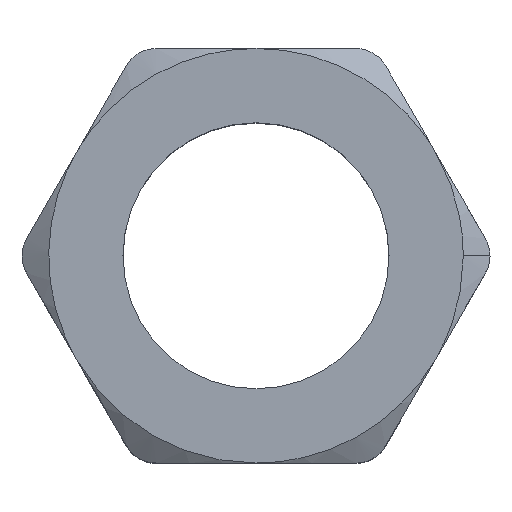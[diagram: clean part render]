
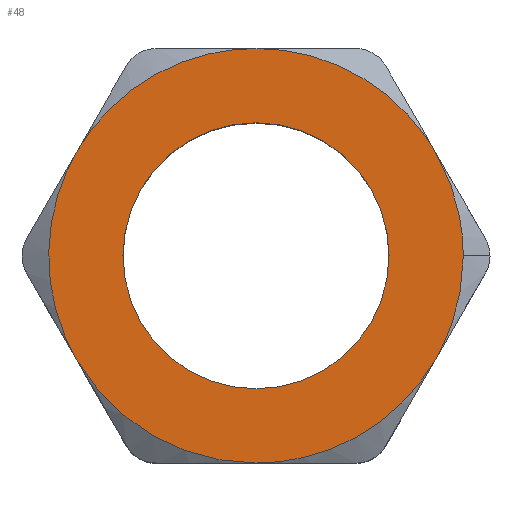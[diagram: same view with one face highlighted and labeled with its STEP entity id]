
A CAD part, top view. The second image highlights one B-rep face of the part: STEP entity #48.
In plain terms, the highlighted planar face has unit normal (0, 0, 1).
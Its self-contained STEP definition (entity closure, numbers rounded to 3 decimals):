
#15=FACE_BOUND('',#134,.T.);
#48=ADVANCED_FACE('',(#90,#15),#623,.T.);
#90=FACE_OUTER_BOUND('',#133,.T.);
#133=EDGE_LOOP('',(#291,#292,#293,#294,#295,#296,#297));
#134=EDGE_LOOP('',(#298,#299));
#291=ORIENTED_EDGE('',*,*,#387,.F.);
#292=ORIENTED_EDGE('',*,*,#419,.F.);
#293=ORIENTED_EDGE('',*,*,#420,.F.);
#294=ORIENTED_EDGE('',*,*,#421,.F.);
#295=ORIENTED_EDGE('',*,*,#422,.F.);
#296=ORIENTED_EDGE('',*,*,#423,.F.);
#297=ORIENTED_EDGE('',*,*,#424,.F.);
#298=ORIENTED_EDGE('',*,*,#431,.F.);
#299=ORIENTED_EDGE('',*,*,#427,.F.);
#387=EDGE_CURVE('',#591,#587,#525,.T.);
#419=EDGE_CURVE('',#583,#591,#533,.T.);
#420=EDGE_CURVE('',#580,#583,#534,.T.);
#421=EDGE_CURVE('',#577,#580,#535,.T.);
#422=EDGE_CURVE('',#574,#577,#536,.T.);
#423=EDGE_CURVE('',#590,#574,#439,.T.);
#424=EDGE_CURVE('',#587,#590,#537,.T.);
#427=EDGE_CURVE('',#593,#594,#441,.T.);
#431=EDGE_CURVE('',#594,#593,#443,.T.);
#439=TRIMMED_CURVE($,#451,(#1545),(#1546),.T.,.CARTESIAN.);
#441=TRIMMED_CURVE($,#453,(#1556),(#1557),.T.,.CARTESIAN.);
#443=TRIMMED_CURVE($,#455,(#1566),(#1567),.T.,.CARTESIAN.);
#451=CIRCLE('',#761,12.);
#453=CIRCLE('',#763,7.7);
#455=CIRCLE('',#765,7.7);
#525=(
BOUNDED_CURVE()
B_SPLINE_CURVE(2,(#1371,#1372,#1373),.UNSPECIFIED.,.F.,.F.)
B_SPLINE_CURVE_WITH_KNOTS((3,3),(0.,8.871),.UNSPECIFIED.)
CURVE()
GEOMETRIC_REPRESENTATION_ITEM()
RATIONAL_B_SPLINE_CURVE((1.,0.966,1.))
REPRESENTATION_ITEM('')
);
#533=(
BOUNDED_CURVE()
B_SPLINE_CURVE(2,(#1532,#1533,#1534),.UNSPECIFIED.,.F.,.F.)
B_SPLINE_CURVE_WITH_KNOTS((3,3),(97.583,106.454),
 .UNSPECIFIED.)
CURVE()
GEOMETRIC_REPRESENTATION_ITEM()
RATIONAL_B_SPLINE_CURVE((1.,0.966,1.))
REPRESENTATION_ITEM('')
);
#534=(
BOUNDED_CURVE()
B_SPLINE_CURVE(2,(#1535,#1536,#1537),.UNSPECIFIED.,.F.,.F.)
B_SPLINE_CURVE_WITH_KNOTS((3,3),(79.841,97.583),
 .UNSPECIFIED.)
CURVE()
GEOMETRIC_REPRESENTATION_ITEM()
RATIONAL_B_SPLINE_CURVE((1.,0.866,1.))
REPRESENTATION_ITEM('')
);
#535=(
BOUNDED_CURVE()
B_SPLINE_CURVE(2,(#1538,#1539,#1540),.UNSPECIFIED.,.F.,.F.)
B_SPLINE_CURVE_WITH_KNOTS((3,3),(62.098,79.841),
 .UNSPECIFIED.)
CURVE()
GEOMETRIC_REPRESENTATION_ITEM()
RATIONAL_B_SPLINE_CURVE((1.,0.866,1.))
REPRESENTATION_ITEM('')
);
#536=(
BOUNDED_CURVE()
B_SPLINE_CURVE(2,(#1541,#1542,#1543),.UNSPECIFIED.,.F.,.F.)
B_SPLINE_CURVE_WITH_KNOTS((3,3),(44.356,62.098),
 .UNSPECIFIED.)
CURVE()
GEOMETRIC_REPRESENTATION_ITEM()
RATIONAL_B_SPLINE_CURVE((1.,0.866,1.))
REPRESENTATION_ITEM('')
);
#537=(
BOUNDED_CURVE()
B_SPLINE_CURVE(2,(#1547,#1548,#1549),.UNSPECIFIED.,.F.,.F.)
B_SPLINE_CURVE_WITH_KNOTS((3,3),(8.871,26.614),
 .UNSPECIFIED.)
CURVE()
GEOMETRIC_REPRESENTATION_ITEM()
RATIONAL_B_SPLINE_CURVE((1.,0.866,1.))
REPRESENTATION_ITEM('')
);
#574=VERTEX_POINT('',#1138);
#577=VERTEX_POINT('',#1141);
#580=VERTEX_POINT('',#1144);
#583=VERTEX_POINT('',#1147);
#587=VERTEX_POINT('',#1151);
#590=VERTEX_POINT('',#1154);
#591=VERTEX_POINT('',#1155);
#593=VERTEX_POINT('',#1157);
#594=VERTEX_POINT('',#1158);
#623=PLANE('',#751);
#751=AXIS2_PLACEMENT_3D('',#975,#794,$);
#761=AXIS2_PLACEMENT_3D($,#1544,#811,#812);
#763=AXIS2_PLACEMENT_3D($,#1555,#815,#816);
#765=AXIS2_PLACEMENT_3D($,#1565,#819,#820);
#794=DIRECTION('',(0.,0.,1.));
#811=DIRECTION('',(0.,0.,-1.));
#812=DIRECTION('',(0.,-1.,0.));
#815=DIRECTION('',(0.,0.,1.));
#816=DIRECTION('',(1.,0.,0.));
#819=DIRECTION('',(0.,0.,1.));
#820=DIRECTION('',(-1.,0.,0.));
#975=CARTESIAN_POINT('',(127855.503,-54048.865,0.));
#1138=CARTESIAN_POINT('',(127859.244,-54067.105,0.));
#1141=CARTESIAN_POINT('',(127859.244,-54055.105,0.));
#1144=CARTESIAN_POINT('',(127869.636,-54049.105,0.));
#1147=CARTESIAN_POINT('',(127880.029,-54055.105,0.));
#1151=CARTESIAN_POINT('',(127880.029,-54067.105,0.));
#1154=CARTESIAN_POINT('',(127869.636,-54073.105,0.));
#1155=CARTESIAN_POINT('',(127881.636,-54061.105,0.));
#1157=CARTESIAN_POINT('',(127877.336,-54061.105,0.));
#1158=CARTESIAN_POINT('',(127861.936,-54061.105,0.));
#1371=CARTESIAN_POINT('',(127881.636,-54061.105,0.));
#1372=CARTESIAN_POINT('',(127881.636,-54064.321,0.));
#1373=CARTESIAN_POINT('',(127880.029,-54067.105,0.));
#1532=CARTESIAN_POINT('',(127880.029,-54055.105,0.));
#1533=CARTESIAN_POINT('',(127881.636,-54057.89,0.));
#1534=CARTESIAN_POINT('',(127881.636,-54061.105,0.));
#1535=CARTESIAN_POINT('',(127869.636,-54049.105,0.));
#1536=CARTESIAN_POINT('',(127876.565,-54049.105,0.));
#1537=CARTESIAN_POINT('',(127880.029,-54055.105,0.));
#1538=CARTESIAN_POINT('',(127859.244,-54055.105,0.));
#1539=CARTESIAN_POINT('',(127862.708,-54049.105,0.));
#1540=CARTESIAN_POINT('',(127869.636,-54049.105,0.));
#1541=CARTESIAN_POINT('',(127859.244,-54067.105,0.));
#1542=CARTESIAN_POINT('',(127855.78,-54061.105,0.));
#1543=CARTESIAN_POINT('',(127859.244,-54055.105,0.));
#1544=CARTESIAN_POINT('',(127869.636,-54061.105,0.));
#1545=CARTESIAN_POINT('',(127869.636,-54073.105,0.));
#1546=CARTESIAN_POINT('',(127859.244,-54067.105,0.));
#1547=CARTESIAN_POINT('',(127880.029,-54067.105,0.));
#1548=CARTESIAN_POINT('',(127876.565,-54073.105,0.));
#1549=CARTESIAN_POINT('',(127869.636,-54073.105,0.));
#1555=CARTESIAN_POINT('',(127869.636,-54061.105,0.));
#1556=CARTESIAN_POINT('',(127877.336,-54061.105,0.));
#1557=CARTESIAN_POINT('',(127861.936,-54061.105,0.));
#1565=CARTESIAN_POINT('',(127869.636,-54061.105,0.));
#1566=CARTESIAN_POINT('',(127861.936,-54061.105,0.));
#1567=CARTESIAN_POINT('',(127877.336,-54061.105,0.));
